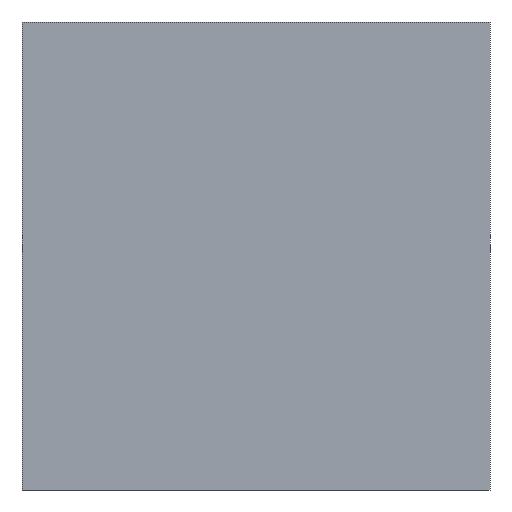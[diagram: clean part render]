
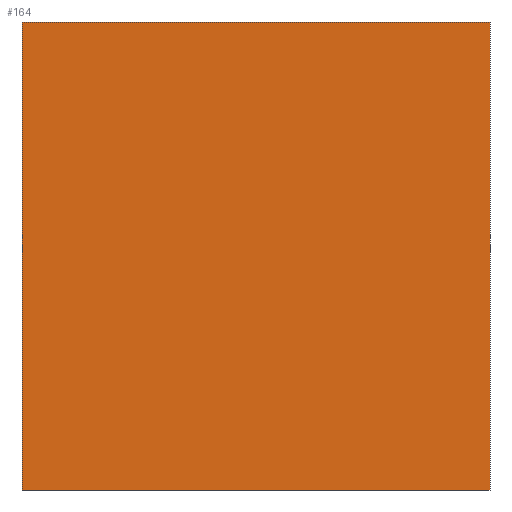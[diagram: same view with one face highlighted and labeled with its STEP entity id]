
A CAD part, front view. The second image highlights one B-rep face of the part: STEP entity #164.
In plain terms, the highlighted planar face has unit normal (0, -1, 0).
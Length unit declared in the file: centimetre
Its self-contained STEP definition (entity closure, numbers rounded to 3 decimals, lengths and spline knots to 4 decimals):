
#27 = CARTESIAN_POINT ( 'NONE',  ( 1000., 0., 1000. ) ) ;
#31 = DIRECTION ( 'NONE',  ( 0., 0., 1. ) ) ;
#41 = ORIENTED_EDGE ( 'NONE', *, *, #157, .F. ) ;
#44 = VECTOR ( 'NONE', #56, 100. ) ;
#49 = CARTESIAN_POINT ( 'NONE',  ( 0., 0., 1000. ) ) ;
#56 = DIRECTION ( 'NONE',  ( 1., 0., 0. ) ) ;
#69 = EDGE_CURVE ( 'NONE', #204, #409, #89, .T. ) ;
#89 = LINE ( 'NONE', #388, #44 ) ;
#94 = AXIS2_PLACEMENT_3D ( 'NONE', #174, #100, #31 ) ;
#100 = DIRECTION ( 'NONE',  ( 0., 1., 0. ) ) ;
#148 = CARTESIAN_POINT ( 'NONE',  ( 0., 0., 1000. ) ) ;
#150 = VERTEX_POINT ( 'NONE', #212 ) ;
#157 = EDGE_CURVE ( 'NONE', #150, #409, #355, .T. ) ;
#161 = CARTESIAN_POINT ( 'NONE',  ( 1000., 0., 0. ) ) ;
#164 = ADVANCED_FACE ( 'NONE', ( #391 ), #206, .F. ) ;
#174 = CARTESIAN_POINT ( 'NONE',  ( 0., 0., 1000. ) ) ;
#189 = VECTOR ( 'NONE', #292, 100. ) ;
#192 = DIRECTION ( 'NONE',  ( 1., 0., 0. ) ) ;
#204 = VERTEX_POINT ( 'NONE', #232 ) ;
#206 = PLANE ( 'NONE',  #94 ) ;
#212 = CARTESIAN_POINT ( 'NONE',  ( 1000., 0., 1000. ) ) ;
#216 = ORIENTED_EDGE ( 'NONE', *, *, #69, .T. ) ;
#223 = LINE ( 'NONE', #148, #189 ) ;
#232 = CARTESIAN_POINT ( 'NONE',  ( 0., 0., 0. ) ) ;
#237 = LINE ( 'NONE', #49, #309 ) ;
#244 = DIRECTION ( 'NONE',  ( 0., 0., -1. ) ) ;
#247 = ORIENTED_EDGE ( 'NONE', *, *, #335, .T. ) ;
#253 = EDGE_LOOP ( 'NONE', ( #216, #41, #410, #247 ) ) ;
#292 = DIRECTION ( 'NONE',  ( 0., 0., -1. ) ) ;
#304 = EDGE_CURVE ( 'NONE', #454, #150, #237, .T. ) ;
#309 = VECTOR ( 'NONE', #192, 100. ) ;
#335 = EDGE_CURVE ( 'NONE', #454, #204, #223, .T. ) ;
#340 = VECTOR ( 'NONE', #244, 100. ) ;
#355 = LINE ( 'NONE', #27, #340 ) ;
#388 = CARTESIAN_POINT ( 'NONE',  ( 0., 0., 0. ) ) ;
#391 = FACE_OUTER_BOUND ( 'NONE', #253, .T. ) ;
#409 = VERTEX_POINT ( 'NONE', #161 ) ;
#410 = ORIENTED_EDGE ( 'NONE', *, *, #304, .F. ) ;
#454 = VERTEX_POINT ( 'NONE', #464 ) ;
#464 = CARTESIAN_POINT ( 'NONE',  ( 0., 0., 1000. ) ) ;
